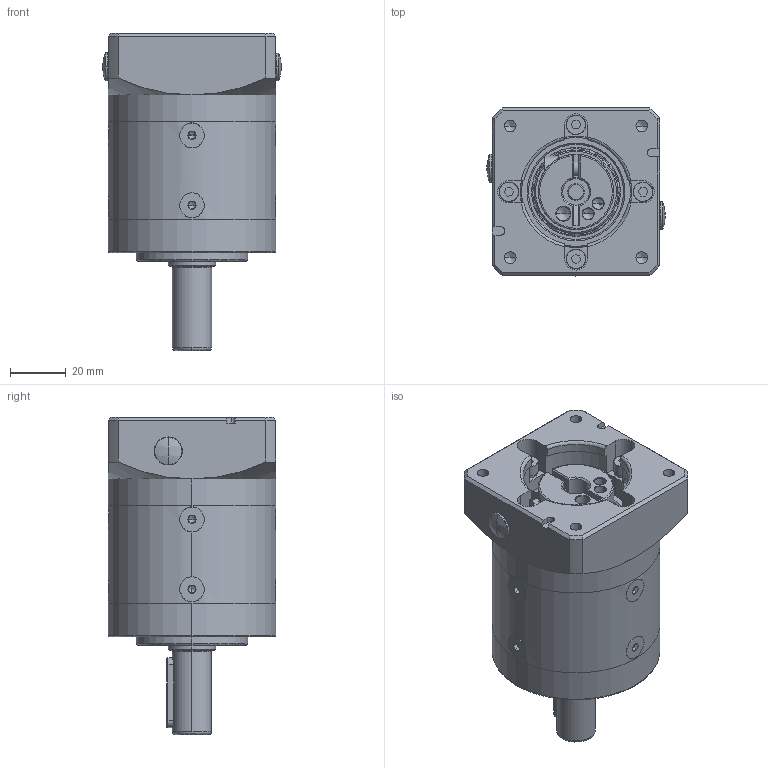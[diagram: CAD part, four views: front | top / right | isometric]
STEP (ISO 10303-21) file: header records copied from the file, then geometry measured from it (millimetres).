
FILE_DESCRIPTION (( 'STEP AP214' ), '1' );
FILE_NAME ('GSLL-060-0_ _-N023_-XX Single Stage.STEP', '2025-08-26T14:48:23', ( '' ), ( '' ), 'SwSTEP 2.0', 'SolidWorks 2020', '' );
FILE_SCHEMA (( 'AUTOMOTIVE_DESIGN' ));
Length unit declared in the file: millimetre
Products named in the file (1): GSLL-060-0_ _-N023_-XX Single Stage
Bounding box: 63.92 x 60 x 113.5 mm (x, y, z)
Volume: 154531.1 mm3; surface area: 85391.1 mm2
Topology: 45 solids, 49 shells, 1327 faces, 3400 edges, 2102 vertices
Faces by surface type: bspline 399, cylinder 384, plane 352, cone 192
Entity records: 59317 total; most frequent: CARTESIAN_POINT 26153, ORIENTED_EDGE 6544, DIRECTION 5655, EDGE_CURVE 3272, AXIS2_PLACEMENT_3D 2398, VERTEX_POINT 2102, EDGE_LOOP 1518, CIRCLE 1469
